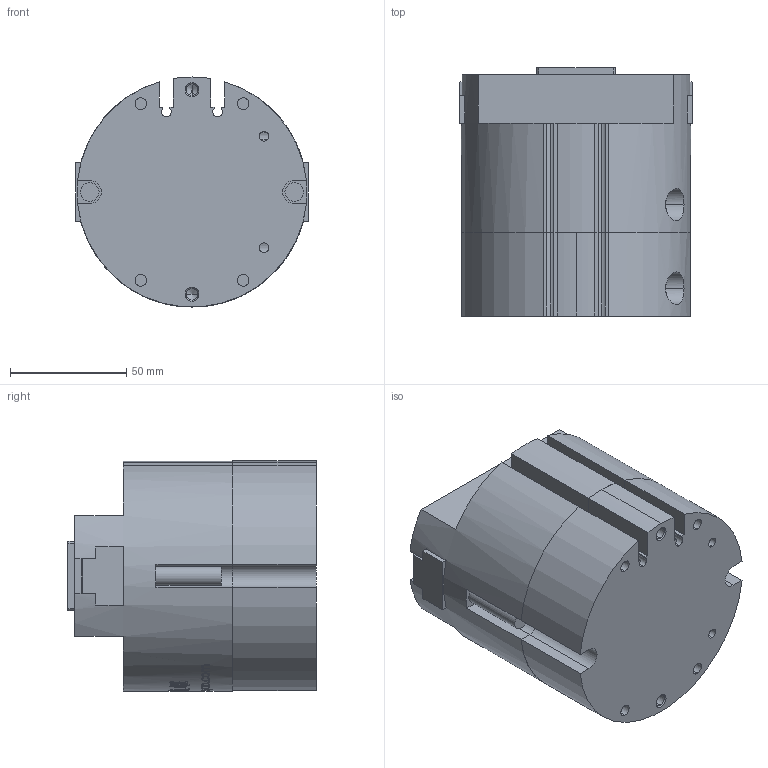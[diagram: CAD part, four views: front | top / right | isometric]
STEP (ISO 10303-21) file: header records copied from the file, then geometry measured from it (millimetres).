
FILE_DESCRIPTION (( 'STEP AP203' ), '1' );
FILE_NAME ('OPM-100-C1-MC&MA-原始檔-組合-W106.04.18.STEP', '2017-04-18T06:47:55', ( 'DanyaoCAD' ), ( '' ), 'SwSTEP 2.0', 'SolidWorks 2016', '' );
FILE_SCHEMA (( 'CONFIG_CONTROL_DESIGN' ));
Length unit declared in the file: millimetre
Products named in the file (4): Fondello; Corpo; Griffa; OPM-100-C1-MC&MA-原始檔-組合-W106.04.18
Assembly tree (4 placements, depth 2):
  OPM-100-C1-MC&MA-原始檔-組合-W106.04.18
    Fondello
    Corpo
    Griffa  x2
Bounding box: 100 x 107 x 99 mm (x, y, z)
Volume: 699615 mm3; surface area: 94838.9 mm2
Topology: 4 solids, 4 shells, 1016 faces, 2824 edges, 1872 vertices
Faces by surface type: bspline 665, plane 203, cylinder 128, cone 20
Entity records: 100457 total; most frequent: CARTESIAN_POINT 80560, ORIENTED_EDGE 5480, EDGE_CURVE 2740, B_SPLINE_CURVE_WITH_KNOTS 2046, VERTEX_POINT 1822, DIRECTION 1578, EDGE_LOOP 1064, ADVANCED_FACE 985
